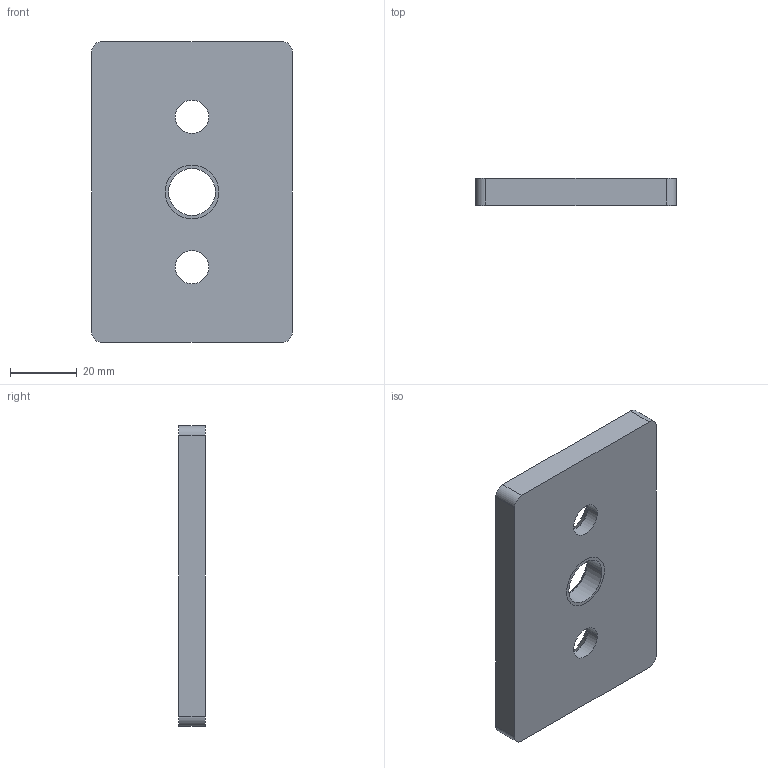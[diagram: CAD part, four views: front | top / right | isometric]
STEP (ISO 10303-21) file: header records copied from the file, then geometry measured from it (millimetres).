
FILE_DESCRIPTION((''),'2;1');
FILE_NAME('TAF609016','2002-12-27T',('Lipro doo'),('Lipro d.o.o.'),'PRO/ENGINEER BY PARAMETRIC TECHNOLOGY CORPORATION, 2001150','PRO/ENGINEER BY PARAMETRIC TECHNOLOGY CORPORATION, 2001150','');
FILE_SCHEMA(('CONFIG_CONTROL_DESIGN'));
Length unit declared in the file: millimetre
Products named in the file (1): TAF609016
Bounding box: 60 x 8 x 90 mm (x, y, z)
Volume: 39940.4 mm3; surface area: 13593.6 mm2
Topology: 1 solids, 2 shells, 24 faces, 60 edges, 38 vertices
Faces by surface type: cylinder 12, plane 6, cone 6
Entity records: 782 total; most frequent: DIRECTION 140, CARTESIAN_POINT 123, ORIENTED_EDGE 116, EDGE_CURVE 60, AXIS2_PLACEMENT_3D 55, VERTEX_POINT 38, VECTOR 30, LINE 30
